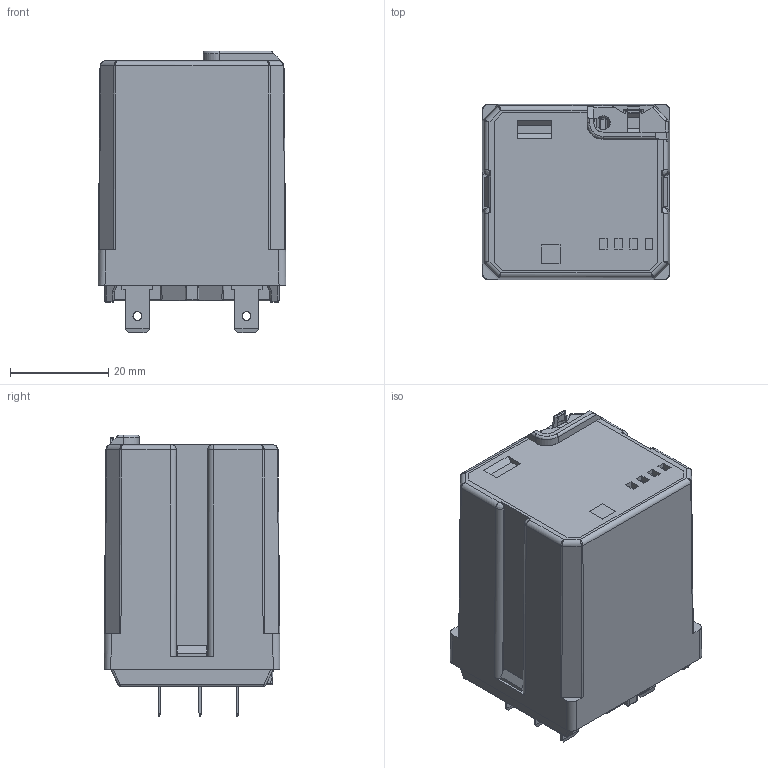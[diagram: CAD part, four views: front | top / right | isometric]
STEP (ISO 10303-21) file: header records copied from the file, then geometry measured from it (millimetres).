
FILE_DESCRIPTION(('STEP AP214'),'2;1');
FILE_NAME('6232-4800.stp','2014-07-10T14:17:54',(''),(''),'2007.1.106','THINKDESIGN','');
FILE_SCHEMA(('AUTOMOTIVE_DESIGN'));
Length unit declared in the file: millimetre
Products named in the file (1): top
Bounding box: 38.2 x 35.8 x 57.3 mm (x, y, z)
Surface area: 11421.4 mm2 (no closed solid volume)
Topology: 0 solids, 0 shells, 475 faces, 2670 edges, 2631 vertices
Faces by surface type: plane 281, cylinder 117, bspline 77
Full cylindrical faces by diameter (mm): 1.8 x6, 5 x1
Entity records: 26249 total; most frequent: CARTESIAN_POINT 11323, DIRECTION 3083, COMPOSITE_CURVE_SEGMENT 2647, TRIMMED_CURVE 2132, VECTOR 2007, LINE 2007, AXIS2_PLACEMENT_3D 538, OUTER_BOUNDARY_CURVE 475
